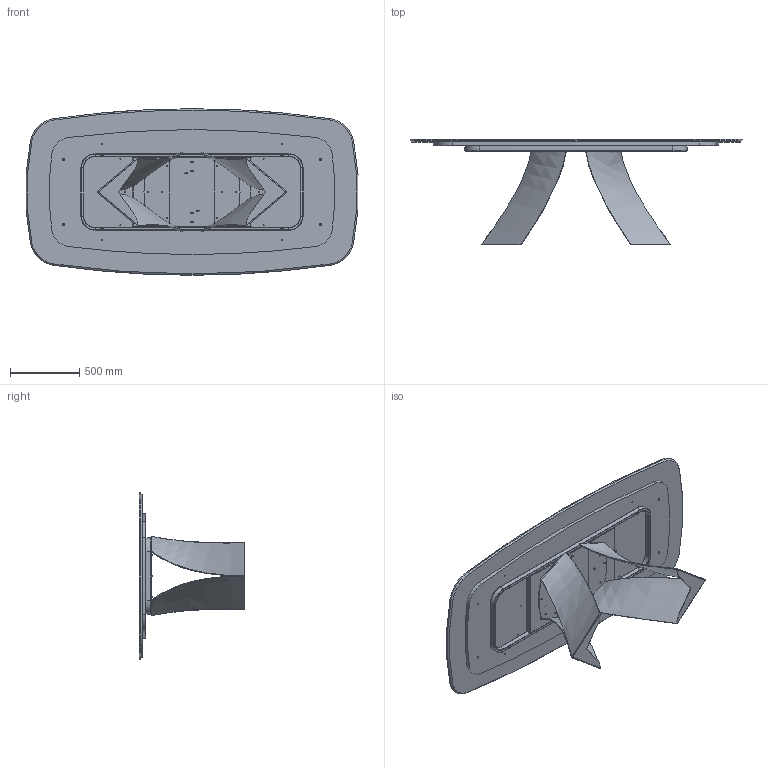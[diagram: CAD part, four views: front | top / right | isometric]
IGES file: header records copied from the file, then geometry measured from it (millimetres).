
Start section: SolidWorks IGES file using analytic representation for surfaces
Global section: file name: Y:\eforma\TECNICO\SOLIDWORKS\E-FORMA\1-TAVOLI\TWIST\02 parts\TW43M.IGS; native system: SolidWorks 2022; preprocessor: SolidWorks 2022; author: eforma.tech; date: 240807.143958; units: millimetre
Bounding box: 2391.9 x 760.37 x 1200 mm (x, y, z)
Volume: 106199302.6 mm3; surface area: 13390713.4 mm2
Topology: 53 solids, 53 shells, 1337 faces, 3141 edges, 1875 vertices
Faces by surface type: revolution 805, plane 466, bspline 66
